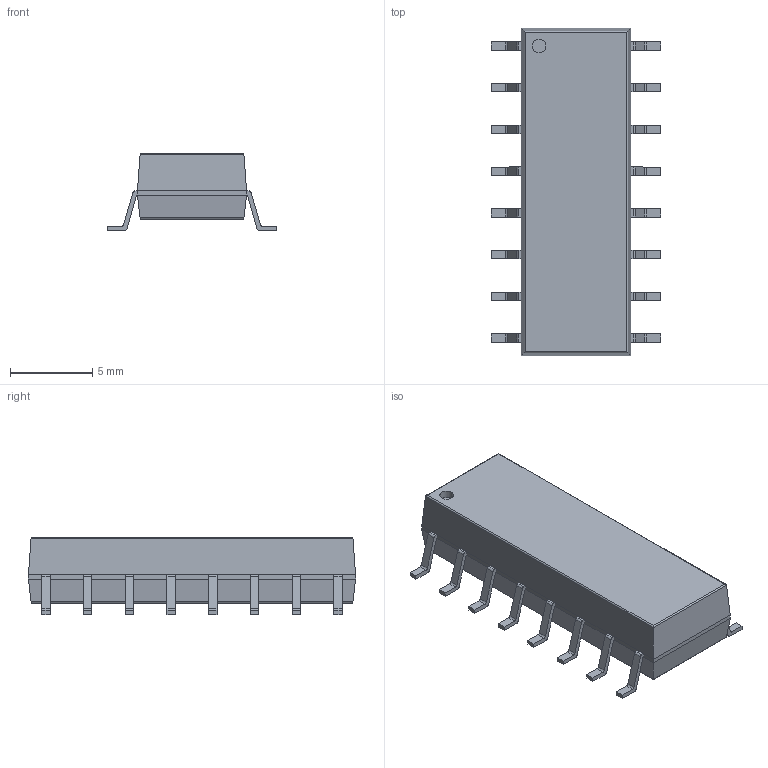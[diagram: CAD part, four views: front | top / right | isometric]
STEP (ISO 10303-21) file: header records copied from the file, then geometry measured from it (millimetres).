
FILE_DESCRIPTION(('FreeCAD Model'),'2;1');
FILE_NAME('/var/www/3D/0T/1376942.1.1.stp','2025-06-10T04:24:51',( 'Author'),(''),'Open CASCADE STEP processor 6.9','FreeCAD','Unknown' );
FILE_SCHEMA(('AUTOMOTIVE_DESIGN { 1 0 10303 214 1 1 1 1 }'));
Length unit declared in the file: millimetre
Products named in the file (3): ASSEMBLY; Body; PinsArrayLR
Assembly tree (2 placements, depth 2):
  ASSEMBLY
    Body
    PinsArrayLR
Bounding box: 10.3 x 19.92 x 4.7 mm (x, y, z)
Volume: 519.9 mm3; surface area: 544.6 mm2
Topology: 17 solids, 17 shells, 232 faces, 575 edges, 378 vertices
Faces by surface type: plane 175, cylinder 57
Full cylindrical faces by diameter (mm): 0.831 x1
Entity records: 14667 total; most frequent: CARTESIAN_POINT 2790, DIRECTION 2201, LINE 1469, VECTOR 1469, ORIENTED_EDGE 1150, PCURVE 1150, DEFINITIONAL_REPRESENTATION 1150, EDGE_CURVE 575
